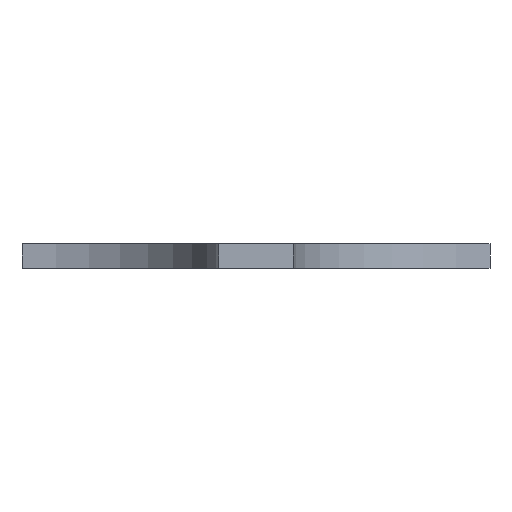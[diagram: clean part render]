
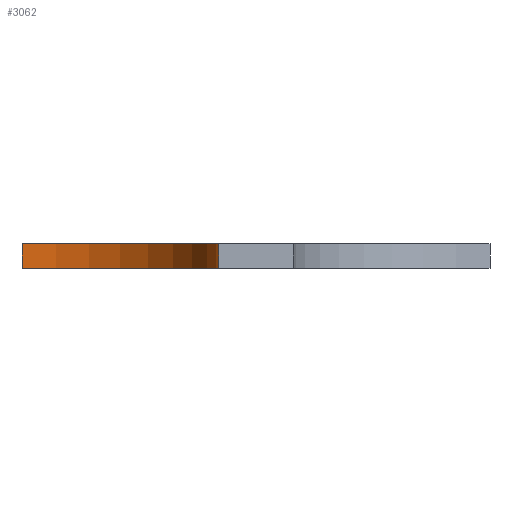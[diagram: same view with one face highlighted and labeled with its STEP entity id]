
A CAD part, front view. The second image highlights one B-rep face of the part: STEP entity #3062.
In plain terms, the highlighted cylindrical face has radius 16 mm (diameter 32 mm), a partial arc.
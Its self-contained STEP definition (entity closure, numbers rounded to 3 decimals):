
#354=CARTESIAN_POINT('',(16.,-76.2,2.));
#355=VERTEX_POINT('',#354);
#356=CARTESIAN_POINT('',(0.,-60.2,2.));
#357=VERTEX_POINT('',#356);
#358=CARTESIAN_POINT('',(0.,-76.2,2.));
#359=DIRECTION('',(0.,-0.,1.));
#360=DIRECTION('',(-0.692,0.722,0.));
#361=AXIS2_PLACEMENT_3D('',#358,#359,#360);
#362=CIRCLE('',#361,16.);
#363=EDGE_CURVE('',#355,#357,#362,.T.);
#1947=CARTESIAN_POINT('',(16.,-76.2,0.));
#1948=VERTEX_POINT('',#1947);
#1949=CARTESIAN_POINT('',(0.,-60.2,0.));
#1950=VERTEX_POINT('',#1949);
#1951=CARTESIAN_POINT('',(0.,-76.2,0.));
#1952=DIRECTION('',(0.,-0.,1.));
#1953=DIRECTION('',(-0.692,0.722,0.));
#1954=AXIS2_PLACEMENT_3D('',#1951,#1952,#1953);
#1955=CIRCLE('',#1954,16.);
#1956=EDGE_CURVE('',#1948,#1950,#1955,.T.);
#3041=CARTESIAN_POINT('',(0.,-76.2,2.));
#3042=DIRECTION('',(0.,0.,-1.));
#3043=DIRECTION('',(-1.,0.,0.));
#3044=AXIS2_PLACEMENT_3D('',#3041,#3042,#3043);
#3045=CYLINDRICAL_SURFACE('',#3044,16.);
#3046=ORIENTED_EDGE('',*,*,#1956,.F.);
#3047=CARTESIAN_POINT('',(16.,-76.2,2.));
#3048=DIRECTION('',(0.,0.,-1.));
#3049=VECTOR('',#3048,2.);
#3050=LINE('',#3047,#3049);
#3051=EDGE_CURVE('',#355,#1948,#3050,.T.);
#3052=ORIENTED_EDGE('',*,*,#3051,.F.);
#3053=ORIENTED_EDGE('',*,*,#363,.T.);
#3054=CARTESIAN_POINT('',(0.,-60.2,2.));
#3055=DIRECTION('',(0.,0.,-1.));
#3056=VECTOR('',#3055,2.);
#3057=LINE('',#3054,#3056);
#3058=EDGE_CURVE('',#357,#1950,#3057,.T.);
#3059=ORIENTED_EDGE('',*,*,#3058,.T.);
#3060=EDGE_LOOP('',(#3046,#3052,#3053,#3059));
#3061=FACE_BOUND('',#3060,.T.);
#3062=ADVANCED_FACE('',(#3061),#3045,.F.);
